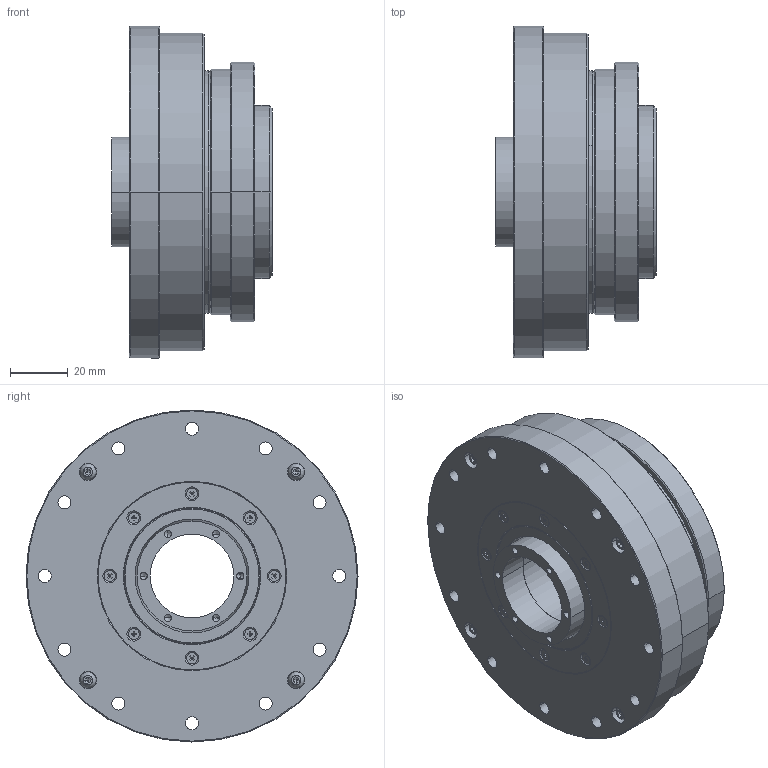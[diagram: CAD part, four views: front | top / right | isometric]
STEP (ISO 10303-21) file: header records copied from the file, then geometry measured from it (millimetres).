
FILE_DESCRIPTION (( 'STEP AP203' ), '1' );
FILE_NAME ('LHSG-25-XXX-C-III.step', '2025-01-07T07:25:40', ( '' ), ( '' ), 'SwSTEP 2.0', 'SolidWorks 2023', '' );
FILE_SCHEMA (( 'CONFIG_CONTROL_DESIGN' ));
Length unit declared in the file: metre
Products named in the file (1): LHSG-25-XXX-C-III
Bounding box: 55.5 x 115 x 115 mm (x, y, z)
Volume: 262920.7 mm3; surface area: 193667.2 mm2
Topology: 58 solids, 58 shells, 2032 faces, 5792 edges, 3611 vertices
Faces by surface type: bspline 645, cylinder 612, plane 459, cone 316
Entity records: 80959 total; most frequent: CARTESIAN_POINT 31845, ORIENTED_EDGE 11160, DIRECTION 9408, EDGE_CURVE 5580, AXIS2_PLACEMENT_3D 3988, VERTEX_POINT 3611, CIRCLE 2600, EDGE_LOOP 2411
